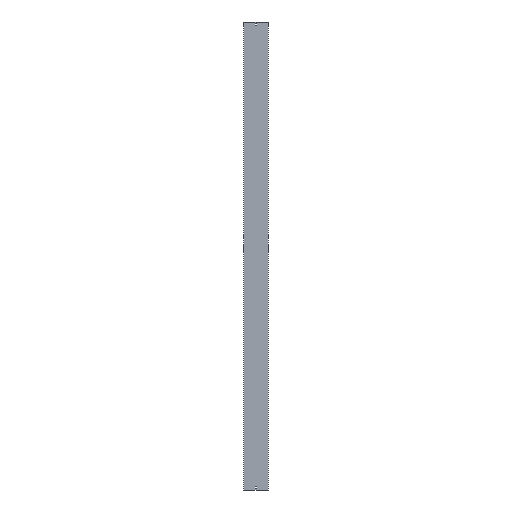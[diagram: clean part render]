
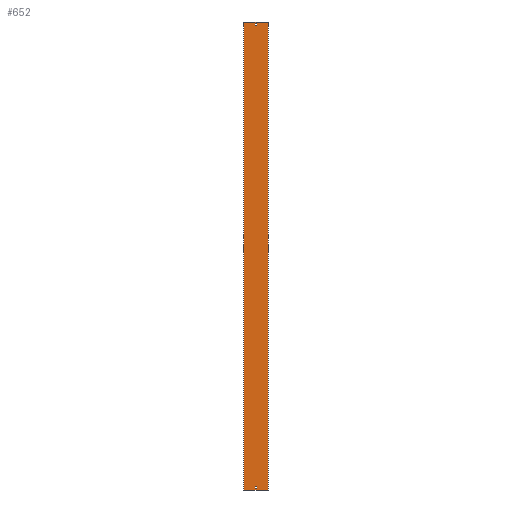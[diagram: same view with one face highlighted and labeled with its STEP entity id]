
A CAD part, front view. The second image highlights one B-rep face of the part: STEP entity #652.
In plain terms, the highlighted planar face has unit normal (0, -1, 0).
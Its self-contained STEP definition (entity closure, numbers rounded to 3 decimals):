
#32 = CARTESIAN_POINT ( 'NONE',  ( 77., 0., 1500. ) ) ;
#43 = DIRECTION ( 'NONE',  ( 1., 0., 0. ) ) ;
#45 = VERTEX_POINT ( 'NONE', #406 ) ;
#71 = FACE_OUTER_BOUND ( 'NONE', #1515, .T. ) ;
#73 = EDGE_CURVE ( 'NONE', #630, #361, #174, .T. ) ;
#99 = DIRECTION ( 'NONE',  ( 0., 0., 1. ) ) ;
#114 = DIRECTION ( 'NONE',  ( -1., 0., 0. ) ) ;
#126 = EDGE_CURVE ( 'NONE', #651, #1283, #1441, .T. ) ;
#137 = CARTESIAN_POINT ( 'NONE',  ( -77., 0., -1500. ) ) ;
#145 = CARTESIAN_POINT ( 'NONE',  ( 77., 0., 1500. ) ) ;
#147 = VECTOR ( 'NONE', #114, 1000. ) ;
#148 = CARTESIAN_POINT ( 'NONE',  ( -3.25, 0., -1479. ) ) ;
#168 = ORIENTED_EDGE ( 'NONE', *, *, #1054, .F. ) ;
#169 = CARTESIAN_POINT ( 'NONE',  ( 3.25, 0., 1488. ) ) ;
#174 = LINE ( 'NONE', #1307, #873 ) ;
#187 = EDGE_CURVE ( 'NONE', #1071, #469, #1350, .T. ) ;
#205 = VECTOR ( 'NONE', #1183, 1000. ) ;
#219 = EDGE_CURVE ( 'NONE', #536, #1019, #446, .T. ) ;
#226 = DIRECTION ( 'NONE',  ( 0., 0., -1. ) ) ;
#253 = CARTESIAN_POINT ( 'NONE',  ( 3.25, 0., 1479. ) ) ;
#255 = CARTESIAN_POINT ( 'NONE',  ( -3.25, 0., 1488. ) ) ;
#261 = VECTOR ( 'NONE', #272, 1000. ) ;
#272 = DIRECTION ( 'NONE',  ( 0., 0., -1. ) ) ;
#292 = CARTESIAN_POINT ( 'NONE',  ( -77., 0., 1500. ) ) ;
#340 = AXIS2_PLACEMENT_3D ( 'NONE', #990, #1506, #354 ) ;
#354 = DIRECTION ( 'NONE',  ( -1., 0., 0. ) ) ;
#361 = VERTEX_POINT ( 'NONE', #253 ) ;
#405 = CARTESIAN_POINT ( 'NONE',  ( -3.25, 0., -1488. ) ) ;
#406 = CARTESIAN_POINT ( 'NONE',  ( 3.25, 0., 1488. ) ) ;
#441 = CARTESIAN_POINT ( 'NONE',  ( -77., 0., 1500. ) ) ;
#446 = LINE ( 'NONE', #1475, #1309 ) ;
#448 = VECTOR ( 'NONE', #657, 1000. ) ;
#453 = LINE ( 'NONE', #148, #205 ) ;
#464 = CARTESIAN_POINT ( 'NONE',  ( -3.25, 0., -1488. ) ) ;
#467 = EDGE_CURVE ( 'NONE', #531, #482, #687, .T. ) ;
#469 = VERTEX_POINT ( 'NONE', #1585 ) ;
#479 = CARTESIAN_POINT ( 'NONE',  ( -77., 0., 1500. ) ) ;
#482 = VERTEX_POINT ( 'NONE', #935 ) ;
#494 = EDGE_LOOP ( 'NONE', ( #1588, #854, #1139, #1188 ) ) ;
#531 = VERTEX_POINT ( 'NONE', #145 ) ;
#536 = VERTEX_POINT ( 'NONE', #712 ) ;
#567 = DIRECTION ( 'NONE',  ( 0., 0., 1. ) ) ;
#582 = VECTOR ( 'NONE', #99, 1000. ) ;
#590 = LINE ( 'NONE', #1126, #1558 ) ;
#626 = LINE ( 'NONE', #255, #147 ) ;
#630 = VERTEX_POINT ( 'NONE', #1092 ) ;
#635 = VECTOR ( 'NONE', #1043, 1000. ) ;
#651 = VERTEX_POINT ( 'NONE', #479 ) ;
#652 = ADVANCED_FACE ( 'NONE', ( #71, #855, #1374 ), #1219, .F. ) ;
#657 = DIRECTION ( 'NONE',  ( 1., 0., 0. ) ) ;
#676 = DIRECTION ( 'NONE',  ( 0., 0., -1. ) ) ;
#687 = LINE ( 'NONE', #32, #635 ) ;
#712 = CARTESIAN_POINT ( 'NONE',  ( 3.25, 0., -1479. ) ) ;
#745 = VECTOR ( 'NONE', #1439, 1000. ) ;
#779 = ORIENTED_EDGE ( 'NONE', *, *, #1508, .F. ) ;
#812 = ORIENTED_EDGE ( 'NONE', *, *, #126, .T. ) ;
#854 = ORIENTED_EDGE ( 'NONE', *, *, #1108, .T. ) ;
#855 = FACE_BOUND ( 'NONE', #1486, .T. ) ;
#873 = VECTOR ( 'NONE', #43, 1000. ) ;
#899 = VECTOR ( 'NONE', #676, 1000. ) ;
#909 = CARTESIAN_POINT ( 'NONE',  ( -3.25, 0., 1488. ) ) ;
#916 = LINE ( 'NONE', #441, #745 ) ;
#935 = CARTESIAN_POINT ( 'NONE',  ( 77., 0., -1500. ) ) ;
#963 = EDGE_CURVE ( 'NONE', #45, #1373, #626, .T. ) ;
#990 = CARTESIAN_POINT ( 'NONE',  ( -77., 0., 1500. ) ) ;
#1019 = VERTEX_POINT ( 'NONE', #1669 ) ;
#1043 = DIRECTION ( 'NONE',  ( 0., 0., -1. ) ) ;
#1047 = EDGE_CURVE ( 'NONE', #1373, #630, #1556, .T. ) ;
#1050 = CARTESIAN_POINT ( 'NONE',  ( -3.25, 0., 1488. ) ) ;
#1054 = EDGE_CURVE ( 'NONE', #651, #531, #916, .T. ) ;
#1067 = VECTOR ( 'NONE', #567, 1000. ) ;
#1071 = VERTEX_POINT ( 'NONE', #405 ) ;
#1074 = EDGE_CURVE ( 'NONE', #1283, #482, #1226, .T. ) ;
#1092 = CARTESIAN_POINT ( 'NONE',  ( -3.25, 0., 1479. ) ) ;
#1108 = EDGE_CURVE ( 'NONE', #469, #536, #453, .T. ) ;
#1110 = ORIENTED_EDGE ( 'NONE', *, *, #73, .F. ) ;
#1126 = CARTESIAN_POINT ( 'NONE',  ( -3.25, 0., -1488. ) ) ;
#1139 = ORIENTED_EDGE ( 'NONE', *, *, #219, .T. ) ;
#1183 = DIRECTION ( 'NONE',  ( 1., 0., 0. ) ) ;
#1188 = ORIENTED_EDGE ( 'NONE', *, *, #1207, .T. ) ;
#1207 = EDGE_CURVE ( 'NONE', #1019, #1071, #590, .T. ) ;
#1219 = PLANE ( 'NONE',  #340 ) ;
#1226 = LINE ( 'NONE', #137, #448 ) ;
#1283 = VERTEX_POINT ( 'NONE', #1639 ) ;
#1307 = CARTESIAN_POINT ( 'NONE',  ( -3.25, 0., 1479. ) ) ;
#1309 = VECTOR ( 'NONE', #226, 1000. ) ;
#1327 = LINE ( 'NONE', #169, #1067 ) ;
#1334 = ORIENTED_EDGE ( 'NONE', *, *, #1047, .F. ) ;
#1350 = LINE ( 'NONE', #464, #582 ) ;
#1373 = VERTEX_POINT ( 'NONE', #1050 ) ;
#1374 = FACE_BOUND ( 'NONE', #494, .T. ) ;
#1439 = DIRECTION ( 'NONE',  ( 1., 0., 0. ) ) ;
#1441 = LINE ( 'NONE', #292, #899 ) ;
#1453 = ORIENTED_EDGE ( 'NONE', *, *, #963, .F. ) ;
#1475 = CARTESIAN_POINT ( 'NONE',  ( 3.25, 0., -1488. ) ) ;
#1486 = EDGE_LOOP ( 'NONE', ( #1110, #1334, #1453, #779 ) ) ;
#1489 = DIRECTION ( 'NONE',  ( -1., 0., 0. ) ) ;
#1506 = DIRECTION ( 'NONE',  ( 0., 1., 0. ) ) ;
#1508 = EDGE_CURVE ( 'NONE', #361, #45, #1327, .T. ) ;
#1515 = EDGE_LOOP ( 'NONE', ( #1653, #1640, #168, #812 ) ) ;
#1556 = LINE ( 'NONE', #909, #261 ) ;
#1558 = VECTOR ( 'NONE', #1489, 1000. ) ;
#1585 = CARTESIAN_POINT ( 'NONE',  ( -3.25, 0., -1479. ) ) ;
#1588 = ORIENTED_EDGE ( 'NONE', *, *, #187, .T. ) ;
#1639 = CARTESIAN_POINT ( 'NONE',  ( -77., 0., -1500. ) ) ;
#1640 = ORIENTED_EDGE ( 'NONE', *, *, #467, .F. ) ;
#1653 = ORIENTED_EDGE ( 'NONE', *, *, #1074, .T. ) ;
#1669 = CARTESIAN_POINT ( 'NONE',  ( 3.25, 0., -1488. ) ) ;
